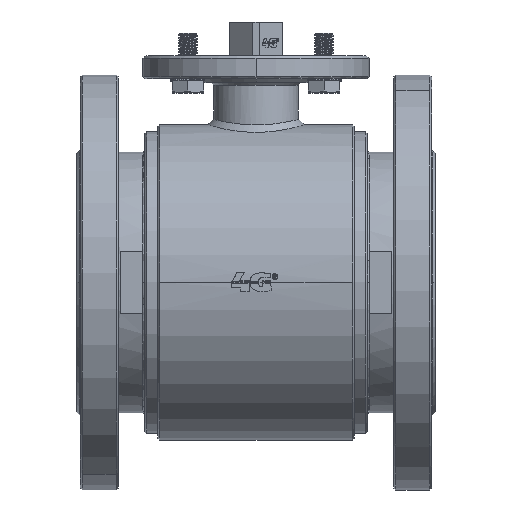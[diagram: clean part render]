
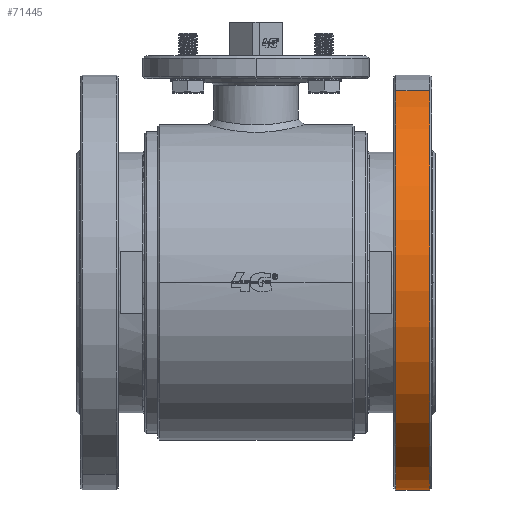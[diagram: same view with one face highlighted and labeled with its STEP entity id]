
A CAD part, top view. The second image highlights one B-rep face of the part: STEP entity #71445.
In plain terms, the highlighted cylindrical face has radius 110 mm (diameter 220 mm), a partial arc.
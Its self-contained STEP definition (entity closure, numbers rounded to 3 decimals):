
#2915=CARTESIAN_POINT('',(92.,0.,0.));
#2916=DIRECTION('',(1.,0.,0.));
#2917=DIRECTION('',(0.,0.924,0.383));
#2918=AXIS2_PLACEMENT_3D('',#2915,#2916,#2917);
#2923=DIRECTION('',(1.,0.,0.));
#2924=VECTOR('',#2923,18.);
#2925=CARTESIAN_POINT('',(74.,-101.627,
-42.095));
#2926=LINE('',#2925,#2924);
#2930=CARTESIAN_POINT('',(74.,0.,0.));
#2931=DIRECTION('',(1.,0.,0.));
#2932=DIRECTION('',(0.,0.924,0.383));
#2933=AXIS2_PLACEMENT_3D('',#2930,#2931,#2932);
#2938=DIRECTION('',(1.,0.,0.));
#2939=VECTOR('',#2938,18.);
#2940=CARTESIAN_POINT('',(74.,101.627,42.095));
#2941=LINE('',#2940,#2939);
#66822=CARTESIAN_POINT('',(74.,101.627,42.095));
#66823=CARTESIAN_POINT('',(74.,-101.627,
-42.095));
#66824=VERTEX_POINT('',#66822);
#66825=VERTEX_POINT('',#66823);
#66834=CARTESIAN_POINT('',(92.,101.627,42.095));
#66835=CARTESIAN_POINT('',(92.,-101.627,
-42.095));
#66836=VERTEX_POINT('',#66834);
#66837=VERTEX_POINT('',#66835);
#71431=CARTESIAN_POINT('',(72.,0.,0.));
#71432=DIRECTION('',(1.,0.,0.));
#71433=DIRECTION('',(0.,-0.924,-0.383));
#71434=AXIS2_PLACEMENT_3D('',#71431,#71432,#71433);
#71435=CYLINDRICAL_SURFACE('',#71434,110.);
#71437=ORIENTED_EDGE('',*,*,#71436,.T.);
#71439=ORIENTED_EDGE('',*,*,#71438,.F.);
#71440=ORIENTED_EDGE('',*,*,#71421,.F.);
#71442=ORIENTED_EDGE('',*,*,#71441,.T.);
#71443=EDGE_LOOP('',(#71437,#71439,#71440,#71442));
#71444=FACE_OUTER_BOUND('',#71443,.F.);
#71445=ADVANCED_FACE('',(#71444),#71435,.T.);
#2919=CIRCLE('',#2918,110.);
#2934=CIRCLE('',#2933,110.);
#71421=EDGE_CURVE('',#66824,#66825,#2934,.T.);
#71436=EDGE_CURVE('',#66836,#66837,#2919,.T.);
#71438=EDGE_CURVE('',#66825,#66837,#2926,.T.);
#71441=EDGE_CURVE('',#66824,#66836,#2941,.T.);
